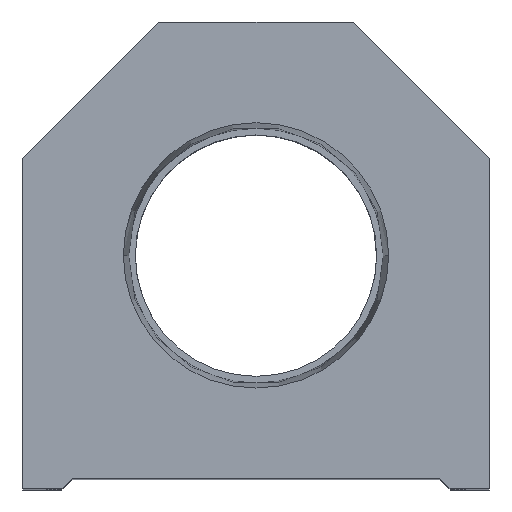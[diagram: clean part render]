
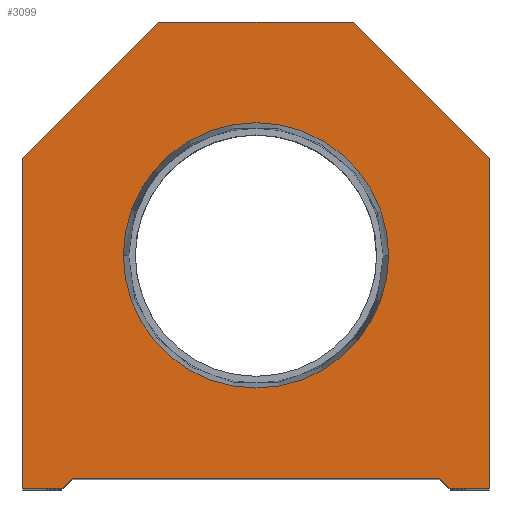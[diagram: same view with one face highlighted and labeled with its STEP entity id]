
A CAD part, top view. The second image highlights one B-rep face of the part: STEP entity #3099.
In plain terms, the highlighted planar face has unit normal (0, 0, 1).
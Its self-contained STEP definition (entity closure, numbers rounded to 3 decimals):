
#141 = DIRECTION ( 'NONE',  ( 0., 1., 0. ) ) ;
#206 = CARTESIAN_POINT ( 'NONE',  ( -17.5, 1., 0. ) ) ;
#407 = CARTESIAN_POINT ( 'NONE',  ( 22.25, 0., 0. ) ) ;
#411 = LINE ( 'NONE', #9971, #4370 ) ;
#455 = DIRECTION ( 'NONE',  ( 1., 0., 0. ) ) ;
#550 = VERTEX_POINT ( 'NONE', #3579 ) ;
#743 = ORIENTED_EDGE ( 'NONE', *, *, #16017, .F. ) ;
#789 = VERTEX_POINT ( 'NONE', #12478 ) ;
#913 = CARTESIAN_POINT ( 'NONE',  ( -22.25, 31.5, 0. ) ) ;
#1120 = CARTESIAN_POINT ( 'NONE',  ( -17.5, 0., 0. ) ) ;
#1140 = LINE ( 'NONE', #1220, #5956 ) ;
#1220 = CARTESIAN_POINT ( 'NONE',  ( 9.25, 44.5, 0. ) ) ;
#1310 = CIRCLE ( 'NONE', #7552, 12.647 ) ;
#1546 = LINE ( 'NONE', #206, #11213 ) ;
#1695 = CARTESIAN_POINT ( 'NONE',  ( -18.5, 0., 0. ) ) ;
#1805 = LINE ( 'NONE', #3238, #15391 ) ;
#1847 = CARTESIAN_POINT ( 'NONE',  ( 22.25, 0., 0. ) ) ;
#1995 = ORIENTED_EDGE ( 'NONE', *, *, #4171, .T. ) ;
#1997 = CARTESIAN_POINT ( 'NONE',  ( -22.25, 0., 0. ) ) ;
#2085 = CARTESIAN_POINT ( 'NONE',  ( 17.5, 0., 0. ) ) ;
#2215 = VERTEX_POINT ( 'NONE', #2831 ) ;
#2254 = FACE_BOUND ( 'NONE', #13881, .T. ) ;
#2440 = LINE ( 'NONE', #2085, #14324 ) ;
#2823 = EDGE_CURVE ( 'NONE', #2215, #7190, #11370, .T. ) ;
#2831 = CARTESIAN_POINT ( 'NONE',  ( -9.25, 44.5, 0. ) ) ;
#2862 = CARTESIAN_POINT ( 'NONE',  ( 9.25, 9.25, 0. ) ) ;
#2925 = CARTESIAN_POINT ( 'NONE',  ( 12.647, 22.25, 0. ) ) ;
#3099 = ADVANCED_FACE ( 'NONE', ( #2254, #6068 ), #11444, .T. ) ;
#3229 = ORIENTED_EDGE ( 'NONE', *, *, #14789, .T. ) ;
#3238 = CARTESIAN_POINT ( 'NONE',  ( -9.25, 9.25, 0. ) ) ;
#3507 = DIRECTION ( 'NONE',  ( 1., 0., 0. ) ) ;
#3579 = CARTESIAN_POINT ( 'NONE',  ( -17.5, 1., 0. ) ) ;
#3775 = CARTESIAN_POINT ( 'NONE',  ( 9.25, 44.5, 0. ) ) ;
#3777 = DIRECTION ( 'NONE',  ( 0., 0., 1. ) ) ;
#3789 = DIRECTION ( 'NONE',  ( 1., 0., 0. ) ) ;
#3798 = VECTOR ( 'NONE', #17548, 1000. ) ;
#3808 = DIRECTION ( 'NONE',  ( -1., 0., 0. ) ) ;
#3852 = VERTEX_POINT ( 'NONE', #8432 ) ;
#3972 = VERTEX_POINT ( 'NONE', #1695 ) ;
#4171 = EDGE_CURVE ( 'NONE', #15263, #2215, #1140, .T. ) ;
#4181 = ORIENTED_EDGE ( 'NONE', *, *, #8192, .F. ) ;
#4312 = DIRECTION ( 'NONE',  ( 1., 0., 0. ) ) ;
#4370 = VECTOR ( 'NONE', #11214, 1000. ) ;
#4571 = VERTEX_POINT ( 'NONE', #6249 ) ;
#4661 = DIRECTION ( 'NONE',  ( -0.707, -0.707, 0. ) ) ;
#4806 = CARTESIAN_POINT ( 'NONE',  ( 0., 0., 0. ) ) ;
#5254 = VECTOR ( 'NONE', #9108, 1000. ) ;
#5560 = VECTOR ( 'NONE', #6532, 1000. ) ;
#5898 = ORIENTED_EDGE ( 'NONE', *, *, #11510, .T. ) ;
#5956 = VECTOR ( 'NONE', #3808, 1000. ) ;
#6068 = FACE_OUTER_BOUND ( 'NONE', #13979, .T. ) ;
#6249 = CARTESIAN_POINT ( 'NONE',  ( -12.647, 22.25, 0. ) ) ;
#6328 = CIRCLE ( 'NONE', #11965, 12.647 ) ;
#6532 = DIRECTION ( 'NONE',  ( 1., 0., 0. ) ) ;
#6702 = VERTEX_POINT ( 'NONE', #407 ) ;
#7190 = VERTEX_POINT ( 'NONE', #15775 ) ;
#7307 = VERTEX_POINT ( 'NONE', #2925 ) ;
#7552 = AXIS2_PLACEMENT_3D ( 'NONE', #17140, #3777, #13004 ) ;
#7778 = LINE ( 'NONE', #1120, #5560 ) ;
#8136 = AXIS2_PLACEMENT_3D ( 'NONE', #4806, #12607, #455 ) ;
#8192 = EDGE_CURVE ( 'NONE', #7307, #4571, #6328, .T. ) ;
#8432 = CARTESIAN_POINT ( 'NONE',  ( 18.5, 0., 0. ) ) ;
#8797 = EDGE_CURVE ( 'NONE', #12630, #3852, #12239, .T. ) ;
#9009 = DIRECTION ( 'NONE',  ( 0., 0., 1. ) ) ;
#9108 = DIRECTION ( 'NONE',  ( -0.707, 0.707, 0. ) ) ;
#9480 = ORIENTED_EDGE ( 'NONE', *, *, #16139, .T. ) ;
#9971 = CARTESIAN_POINT ( 'NONE',  ( -22.25, 0., 0. ) ) ;
#10138 = ORIENTED_EDGE ( 'NONE', *, *, #13659, .T. ) ;
#10406 = ORIENTED_EDGE ( 'NONE', *, *, #2823, .T. ) ;
#10422 = ORIENTED_EDGE ( 'NONE', *, *, #17120, .T. ) ;
#11172 = DIRECTION ( 'NONE',  ( 0.707, 0.707, 0. ) ) ;
#11213 = VECTOR ( 'NONE', #4312, 1000. ) ;
#11214 = DIRECTION ( 'NONE',  ( 0., -1., 0. ) ) ;
#11370 = LINE ( 'NONE', #913, #15242 ) ;
#11444 = PLANE ( 'NONE',  #8136 ) ;
#11510 = EDGE_CURVE ( 'NONE', #16291, #3972, #7778, .T. ) ;
#11965 = AXIS2_PLACEMENT_3D ( 'NONE', #14678, #9009, #3789 ) ;
#12199 = EDGE_CURVE ( 'NONE', #7190, #16291, #411, .T. ) ;
#12239 = LINE ( 'NONE', #2862, #3798 ) ;
#12409 = VECTOR ( 'NONE', #141, 1000. ) ;
#12478 = CARTESIAN_POINT ( 'NONE',  ( 22.25, 31.5, 0. ) ) ;
#12607 = DIRECTION ( 'NONE',  ( 0., 0., 1. ) ) ;
#12630 = VERTEX_POINT ( 'NONE', #14566 ) ;
#13004 = DIRECTION ( 'NONE',  ( 1., 0., 0. ) ) ;
#13046 = LINE ( 'NONE', #17341, #5254 ) ;
#13621 = LINE ( 'NONE', #1847, #12409 ) ;
#13659 = EDGE_CURVE ( 'NONE', #3972, #550, #1805, .T. ) ;
#13881 = EDGE_LOOP ( 'NONE', ( #4181, #743 ) ) ;
#13979 = EDGE_LOOP ( 'NONE', ( #5898, #10138, #9480, #14408, #16629, #10422, #3229, #1995, #10406, #15493 ) ) ;
#14324 = VECTOR ( 'NONE', #3507, 1000. ) ;
#14408 = ORIENTED_EDGE ( 'NONE', *, *, #8797, .T. ) ;
#14566 = CARTESIAN_POINT ( 'NONE',  ( 17.5, 1., 0. ) ) ;
#14678 = CARTESIAN_POINT ( 'NONE',  ( 0., 22.25, 0. ) ) ;
#14789 = EDGE_CURVE ( 'NONE', #789, #15263, #13046, .T. ) ;
#15242 = VECTOR ( 'NONE', #4661, 1000. ) ;
#15263 = VERTEX_POINT ( 'NONE', #3775 ) ;
#15391 = VECTOR ( 'NONE', #11172, 1000. ) ;
#15493 = ORIENTED_EDGE ( 'NONE', *, *, #12199, .T. ) ;
#15602 = EDGE_CURVE ( 'NONE', #3852, #6702, #2440, .T. ) ;
#15775 = CARTESIAN_POINT ( 'NONE',  ( -22.25, 31.5, 0. ) ) ;
#16017 = EDGE_CURVE ( 'NONE', #4571, #7307, #1310, .T. ) ;
#16139 = EDGE_CURVE ( 'NONE', #550, #12630, #1546, .T. ) ;
#16291 = VERTEX_POINT ( 'NONE', #1997 ) ;
#16629 = ORIENTED_EDGE ( 'NONE', *, *, #15602, .T. ) ;
#17120 = EDGE_CURVE ( 'NONE', #6702, #789, #13621, .T. ) ;
#17140 = CARTESIAN_POINT ( 'NONE',  ( 0., 22.25, 0. ) ) ;
#17341 = CARTESIAN_POINT ( 'NONE',  ( 22.25, 31.5, 0. ) ) ;
#17548 = DIRECTION ( 'NONE',  ( 0.707, -0.707, 0. ) ) ;
